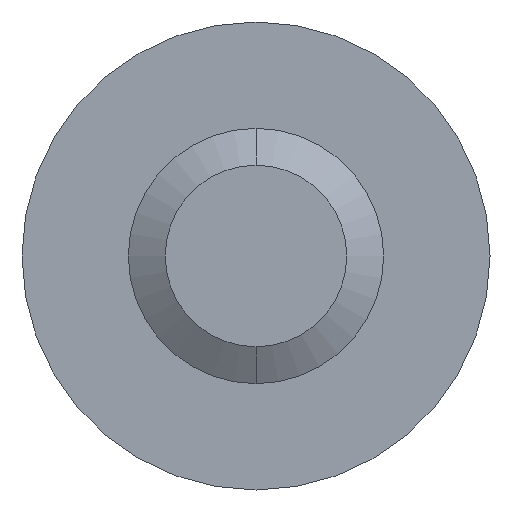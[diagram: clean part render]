
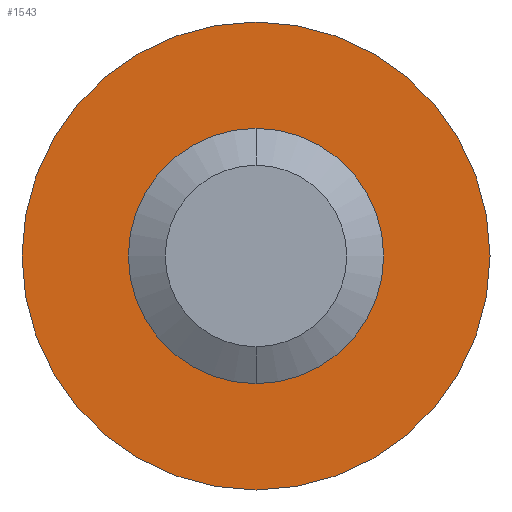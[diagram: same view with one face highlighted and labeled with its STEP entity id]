
A CAD part, front view. The second image highlights one B-rep face of the part: STEP entity #1543.
In plain terms, the highlighted planar face has unit normal (0, -1, 0).
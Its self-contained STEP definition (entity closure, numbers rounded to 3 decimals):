
#43 = CARTESIAN_POINT ( 'NONE',  ( 0., 8., 0. ) ) ;
#62 = AXIS2_PLACEMENT_3D ( 'NONE', #43, #1867, #1325 ) ;
#71 = CARTESIAN_POINT ( 'NONE',  ( 0., 8., 1.5 ) ) ;
#97 = DIRECTION ( 'NONE',  ( 0., 0., 1. ) ) ;
#109 = DIRECTION ( 'NONE',  ( 0., 1., 0. ) ) ;
#125 = AXIS2_PLACEMENT_3D ( 'NONE', #487, #109, #1412 ) ;
#173 = EDGE_CURVE ( 'NONE', #666, #1768, #1035, .T. ) ;
#375 = EDGE_CURVE ( 'NONE', #764, #2043, #591, .T. ) ;
#483 = AXIS2_PLACEMENT_3D ( 'NONE', #2239, #1518, #1335 ) ;
#487 = CARTESIAN_POINT ( 'NONE',  ( 0., 8., 0. ) ) ;
#567 = EDGE_LOOP ( 'NONE', ( #1346, #1236 ) ) ;
#581 = DIRECTION ( 'NONE',  ( 0., 1., 0. ) ) ;
#585 = FACE_OUTER_BOUND ( 'NONE', #567, .T. ) ;
#591 = CIRCLE ( 'NONE', #483, 2.75 ) ;
#666 = VERTEX_POINT ( 'NONE', #71 ) ;
#764 = VERTEX_POINT ( 'NONE', #1027 ) ;
#801 = CARTESIAN_POINT ( 'NONE',  ( 0., 8., -1.5 ) ) ;
#813 = DIRECTION ( 'NONE',  ( 0., 1., 0. ) ) ;
#862 = ORIENTED_EDGE ( 'NONE', *, *, #978, .T. ) ;
#909 = AXIS2_PLACEMENT_3D ( 'NONE', #2037, #581, #1698 ) ;
#978 = EDGE_CURVE ( 'NONE', #1768, #666, #1945, .T. ) ;
#1005 = CARTESIAN_POINT ( 'NONE',  ( 0., 8., 0. ) ) ;
#1027 = CARTESIAN_POINT ( 'NONE',  ( 0., 8., -2.75 ) ) ;
#1035 = CIRCLE ( 'NONE', #1342, 1.5 ) ;
#1154 = CIRCLE ( 'NONE', #125, 2.75 ) ;
#1236 = ORIENTED_EDGE ( 'NONE', *, *, #1781, .F. ) ;
#1244 = EDGE_LOOP ( 'NONE', ( #862, #1795 ) ) ;
#1325 = DIRECTION ( 'NONE',  ( 0., 0., 1. ) ) ;
#1335 = DIRECTION ( 'NONE',  ( 0., 0., 1. ) ) ;
#1342 = AXIS2_PLACEMENT_3D ( 'NONE', #1005, #813, #97 ) ;
#1346 = ORIENTED_EDGE ( 'NONE', *, *, #375, .F. ) ;
#1412 = DIRECTION ( 'NONE',  ( 0., 0., 1. ) ) ;
#1518 = DIRECTION ( 'NONE',  ( 0., 1., 0. ) ) ;
#1543 = ADVANCED_FACE ( 'NONE', ( #585, #2064 ), #2053, .F. ) ;
#1698 = DIRECTION ( 'NONE',  ( 0., 0., 1. ) ) ;
#1768 = VERTEX_POINT ( 'NONE', #801 ) ;
#1781 = EDGE_CURVE ( 'NONE', #2043, #764, #1154, .T. ) ;
#1795 = ORIENTED_EDGE ( 'NONE', *, *, #173, .T. ) ;
#1867 = DIRECTION ( 'NONE',  ( 0., 1., 0. ) ) ;
#1945 = CIRCLE ( 'NONE', #909, 1.5 ) ;
#2037 = CARTESIAN_POINT ( 'NONE',  ( 0., 8., 0. ) ) ;
#2043 = VERTEX_POINT ( 'NONE', #2090 ) ;
#2053 = PLANE ( 'NONE',  #62 ) ;
#2064 = FACE_BOUND ( 'NONE', #1244, .T. ) ;
#2090 = CARTESIAN_POINT ( 'NONE',  ( 0., 8., 2.75 ) ) ;
#2239 = CARTESIAN_POINT ( 'NONE',  ( 0., 8., 0. ) ) ;
